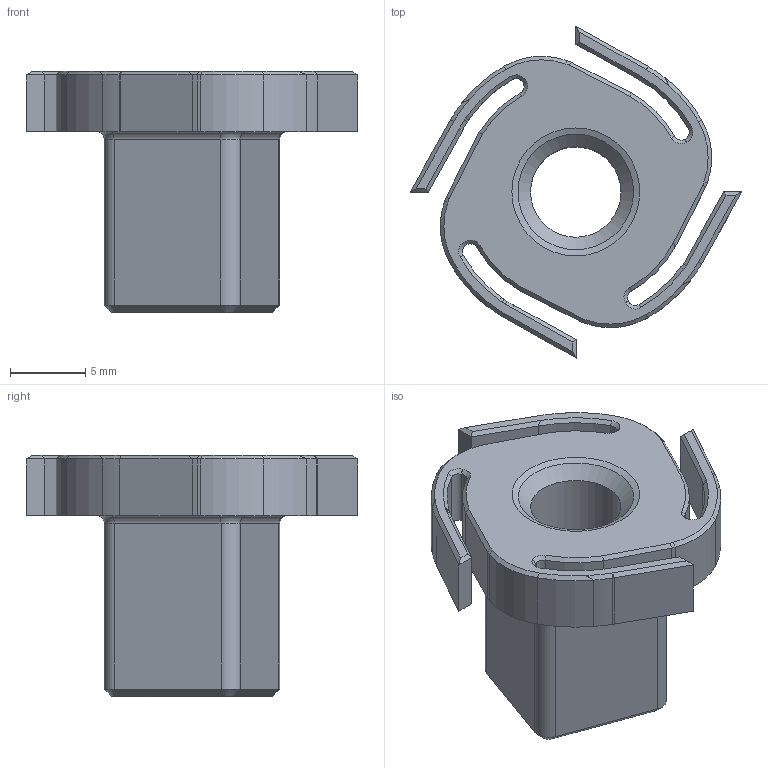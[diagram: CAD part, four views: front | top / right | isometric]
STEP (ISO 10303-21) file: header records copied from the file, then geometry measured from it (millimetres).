
FILE_DESCRIPTION( ( 'Unknown' ), '1' );
FILE_NAME( 'C:/Users/kcleven/Desktop/printer/ratchet/centre2.stp', 'Unknown', ( 'Unknown' ), ( 'Unknown' ), 'PSStep 16.0.42', 'Unknown', ' ' );
FILE_SCHEMA( ( 'AUTOMOTIVE_DESIGN { 1 0 10303 214 1 1 1 1 }' ) );
Length unit declared in the file: millimetre
Products named in the file (1): 1
Bounding box: 22 x 22 x 16 mm (x, y, z)
Volume: 1518.4 mm3; surface area: 1785.4 mm2
Topology: 1 solids, 1 shells, 173 faces, 417 edges, 249 vertices
Faces by surface type: plane 82, cylinder 46, cone 41, torus 4
Full cylindrical faces by diameter (mm): 6 x2, 8 x1
Entity records: 6336 total; most frequent: CARTESIAN_POINT 900, DIRECTION 872, ORIENTED_EDGE 820, EDGE_CURVE 410, AXIS2_PLACEMENT_3D 311, LINE 250, VECTOR 250, VERTEX_POINT 247
